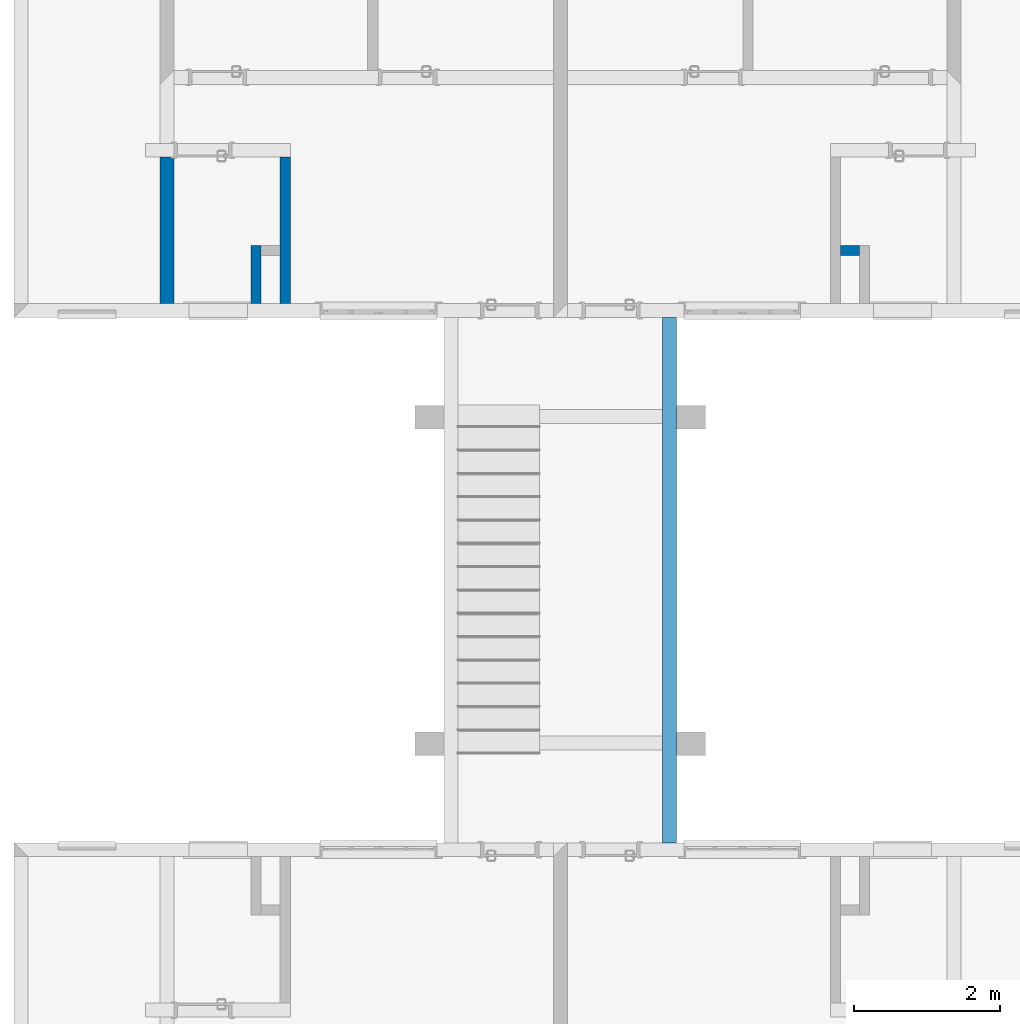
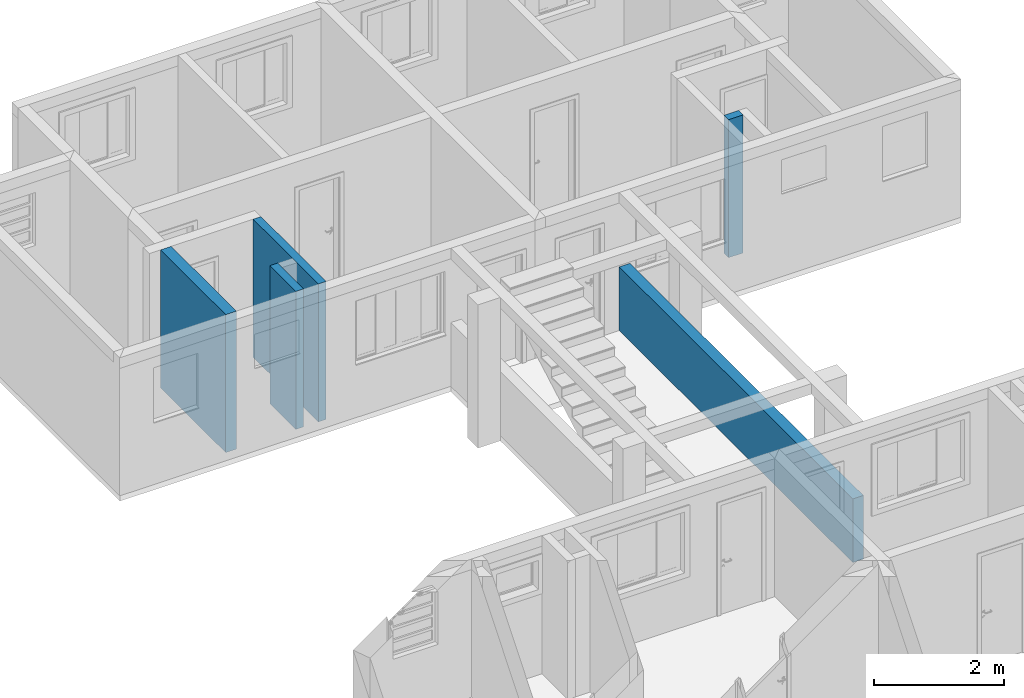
# One storey, part 28 of 47: 5 walls.
"""IFC2X3 building model written with IfcOpenShell, lengths in millimetres."""

from ifc_helpers import new_model, entity, si_unit, converted_unit, derived_unit, money_unit, direction, frame, origin_with_axes, place, context, subcontext, project, spatial, polyline, outline, extrude, material, layer, layer_set, layer_usage, type_object, element, save


model = new_model("IFC2X3")

# Units and contexts
model_context = context("Model", 3, precision=0.01, world=origin_with_axes(), true_north=direction((0.0, 1.0)))
body_context = subcontext(model_context, "Body", "Model", "MODEL_VIEW")
ifc_project = project(units=[si_unit("LENGTHUNIT", "METRE", prefix="MILLI"), si_unit("AREAUNIT", "SQUARE_METRE"), si_unit("VOLUMEUNIT", "CUBIC_METRE"), converted_unit("PLANEANGLEUNIT", "DEGREE", entity("IfcPlaneAngleMeasure", 0.0174532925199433), si_unit("PLANEANGLEUNIT", "RADIAN"), dimensions=[0, 0, 0, 0, 0, 0, 0]), money_unit("USD"), converted_unit("TIMEUNIT", "Year", entity("IfcTimeMeasure", 31557600.0), si_unit("TIMEUNIT", "SECOND"), dimensions=[0, 0, 1, 0, 0, 0, 0]), si_unit("MASSUNIT", "GRAM", prefix="KILO"), si_unit("THERMODYNAMICTEMPERATUREUNIT", "DEGREE_CELSIUS"), si_unit("LUMINOUSINTENSITYUNIT", "LUMEN"), si_unit("ENERGYUNIT", "JOULE", prefix="MEGA"), derived_unit("THERMALCONDUCTANCEUNIT", [(si_unit("POWERUNIT", "WATT"), 1), (si_unit("LENGTHUNIT", "METRE"), -1), (si_unit("THERMODYNAMICTEMPERATUREUNIT", "KELVIN"), -1)]), derived_unit("SPECIFICHEATCAPACITYUNIT", [(si_unit("ENERGYUNIT", "JOULE"), 1), (si_unit("MASSUNIT", "GRAM", prefix="KILO"), -1), (si_unit("THERMODYNAMICTEMPERATUREUNIT", "KELVIN"), -1)]), derived_unit("MASSDENSITYUNIT", [(si_unit("MASSUNIT", "GRAM", prefix="KILO"), 1), (si_unit("VOLUMEUNIT", "CUBIC_METRE"), -1)])], contexts=[model_context])

# Site, building, storey
site_placement = place(None, origin_with_axes())
site = spatial("IfcSite", under=ifc_project, at=site_placement, Name="Local", CompositionType="ELEMENT")
building_placement = place(site_placement, origin_with_axes())
building = spatial("IfcBuilding", under=site, at=building_placement, Name="Construção", CompositionType="ELEMENT")
storey_placement = place(building_placement, origin_with_axes())
storey = spatial("IfcBuildingStorey", under=building, at=storey_placement, Name="Pavimento Tipo", CompositionType="ELEMENT", Elevation=0.0)

# Walls
ifc_material_1 = material(Name="Concreto - Estrutural")
ifc_layer_1 = layer(ifc_material_1, 190.0, ventilated="UNKNOWN")
ifc_layer_set_1 = layer_set([ifc_layer_1], Name="Concreto - Estrutural 190")
ifc_layer_usage_1 = layer_usage(ifc_layer_set_1, "AXIS2", "POSITIVE", -190.0)
wall_type_1 = type_object("IfcWallType", Name="Concreto - Estrutural 190", PredefinedType="NOTDEFINED")
wall_1_placement = place(storey_placement, frame((-4547.433002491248, 12586.98141771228, 0.0), z_axis=(0.0, 0.0, 1.0), x_axis=(0.0, 1.0, 0.0)))
element("IfcWallStandardCase", 1, at=wall_1_placement, inside=storey, type_object=wall_type_1, material=ifc_layer_usage_1, Name="Apartamento 2 - Parede-091", context=body_context, shape_type="SweptSolid", body=[
    extrude(outline(polyline([(0.0, -190.0000000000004), (2010.000000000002, -190.0000000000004), (2010.000000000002, 0.0), (0.0, 0.0), (0.0, -190.0000000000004)])), origin_with_axes(), (0.0, 0.0, 1.0), 2600.0),
])
ifc_layer_usage_2 = layer_usage(ifc_layer_set_1, "AXIS2", "NEGATIVE", 190.0)
wall_2_placement = place(storey_placement, frame((2542.56699750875, 5186.981417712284, 0.0), z_axis=(0.0, 0.0, 1.0), x_axis=(0.0, 1.0, 0.0)))
element("IfcWallStandardCase", 2, at=wall_2_placement, inside=storey, type_object=wall_type_1, material=ifc_layer_usage_2, Name="Núcleo - Parede-003", context=body_context, shape_type="SweptSolid", body=[
    extrude(outline(polyline([(0.0, 0.0), (7210.0, 0.0), (7210.0, 189.9999999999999), (0.0, 189.9999999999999), (0.0, 0.0)])), origin_with_axes(), (0.0, 0.0, 1.0), 1200.0),
])
ifc_material_2 = material(Name="Concreto")
ifc_layer_2 = layer(ifc_material_2, 140.0, ventilated="UNKNOWN")
ifc_layer_set_2 = layer_set([ifc_layer_2], Name="Concreto 140")
ifc_layer_usage_3 = layer_usage(ifc_layer_set_2, "AXIS2", "NEGATIVE", 140.0)
wall_type_2 = type_object("IfcWallType", Name="Concreto 140", PredefinedType="NOTDEFINED")
wall_3_placement = place(storey_placement, frame((5052.566997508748, 13386.98141771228, 0.0), z_axis=(0.0, 0.0, 1.0), x_axis=(-1.0, 0.0, 0.0)))
element("IfcWallStandardCase", 3, at=wall_3_placement, inside=storey, type_object=wall_type_2, material=ifc_layer_usage_3, Name="Apartamento 1 - Parede-097", context=body_context, shape_type="SweptSolid", body=[
    extrude(outline(polyline([(0.0, 0.0), (259.999999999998, 0.0), (259.999999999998, 140.0000000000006), (0.0, 140.0000000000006), (0.0, 0.0)])), origin_with_axes(), (0.0, 0.0, 1.0), 2600.0),
])
ifc_layer_usage_4 = layer_usage(ifc_layer_set_2, "AXIS2", "POSITIVE", -140.0)
wall_4_placement = place(storey_placement, frame((-2897.433002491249, 12586.98141771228, 0.0), z_axis=(0.0, 0.0, 1.0), x_axis=(0.0, 1.0, 0.0)))
element("IfcWallStandardCase", 4, at=wall_4_placement, inside=storey, type_object=wall_type_2, material=ifc_layer_usage_4, Name="Apartamento 2 - Parede-094", context=body_context, shape_type="SweptSolid", body=[
    extrude(outline(polyline([(0.0, -140.0000000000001), (2010.000000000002, -140.0000000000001), (2010.000000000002, 0.0), (0.0, 0.0), (0.0, -140.0000000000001)])), origin_with_axes(), (0.0, 0.0, 1.0), 2600.0),
])
ifc_layer_usage_5 = layer_usage(ifc_layer_set_2, "AXIS2", "POSITIVE", -140.0)
wall_5_placement = place(storey_placement, frame((-3297.433002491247, 12586.98141771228, 0.0), z_axis=(0.0, 0.0, 1.0), x_axis=(0.0, 1.0, 0.0)))
element("IfcWallStandardCase", 5, at=wall_5_placement, inside=storey, type_object=wall_type_2, material=ifc_layer_usage_5, Name="Apartamento 2 - Parede-096", context=body_context, shape_type="SweptSolid", body=[
    extrude(outline(polyline([(0.0, -140.0000000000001), (800.0000000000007, -140.0000000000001), (800.0000000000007, 0.0), (0.0, 0.0), (0.0, -140.0000000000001)])), origin_with_axes(), (0.0, 0.0, 1.0), 2600.0),
])

save(model, "model.ifc")
